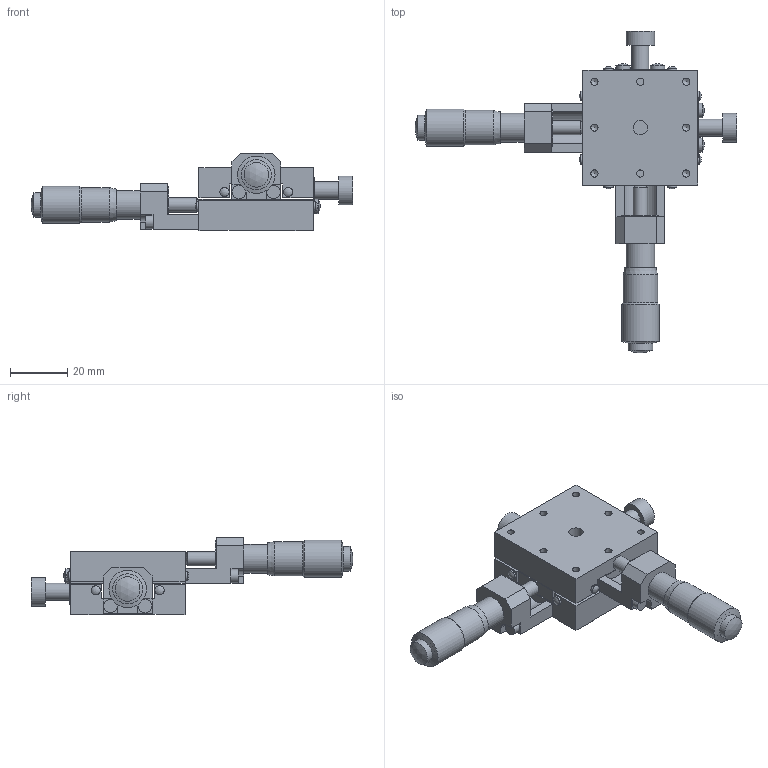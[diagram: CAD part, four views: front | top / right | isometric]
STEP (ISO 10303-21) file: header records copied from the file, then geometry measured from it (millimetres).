
FILE_DESCRIPTION( ( 'STEP AP214' ), '1' );
FILE_NAME( 'C:/Project/3D_B23-40AR-配布-070508.stp', '2007-05-08T10:42:59', ( ' ' ), ( ' ' ), 'XStep 1.0', ' ', ' ' );
FILE_SCHEMA( ( 'automotive_design' ) );
Length unit declared in the file: millimetre
Products named in the file (5): 1; 2; 3; 4; 5
Bounding box: 112.15 x 112.15 x 27 mm (x, y, z)
Volume: 45478.1 mm3; surface area: 26909.8 mm2
Topology: 5 solids, 5 shells, 254 faces, 626 edges, 411 vertices
Faces by surface type: plane 139, cylinder 87, sphere 16, cone 12
Full cylindrical faces by diameter (mm): 2.5 x14, 3 x2, 3.2 x8, 3.5 x4, 4.7 x4, 5 x9, 6 x2, 8.6 x2, 10 x4, 10.5 x2, 12 x2, 13 x2
Entity records: 9044 total; most frequent: DIRECTION 1221, CARTESIAN_POINT 1175, ORIENTED_EDGE 1052, EDGE_CURVE 526, AXIS2_PLACEMENT_3D 437, VERTEX_POINT 384, EDGE_LOOP 372, LINE 347
